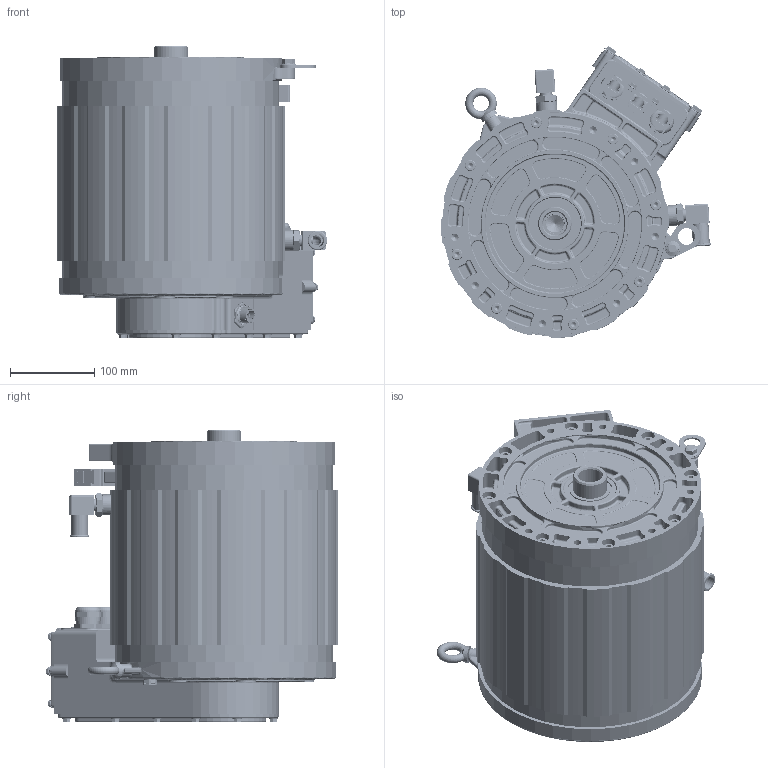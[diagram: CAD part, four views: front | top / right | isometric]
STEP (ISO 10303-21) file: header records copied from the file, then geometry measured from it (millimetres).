
FILE_DESCRIPTION (( 'STEP AP203' ), '1' );
FILE_NAME ('CMLA35-軞蚾极.STEP', '2022-03-16T03:18:18', ( '22' ), ( 'Microsoft' ), 'SwSTEP 2.0', 'SolidWorks 2014', '' );
FILE_SCHEMA (( 'CONFIG_CONTROL_DESIGN' ));
Length unit declared in the file: millimetre
Products named in the file (47): CMLA32-SDY _X2_673A5EA7591658F3_X0_; spring lock washers--normal type gb_GB_FASTENER_WASHER_SW 6; hexagon socket head cap screws gb_GB_FASTENER_SCREWS_HSHCS M6X16-N; MP11-88-02三相线卡扣-S0; hex flange bolts-heavy grade b gb_GB_FASTENER_BOLT_HFBB M5X12-N; CMLA32-SDY _X2_673A5EA7518558F3_X0_; 呿蹋滅阨芵ァ概M12X1.50902; M8 _X2_540A73AF87BA9489_X0_; SMAA10-16-DE01 裂嫉; cross recessed pan head screws gb_GB_CROSS_SCREWS_TYPE1 M4X10-10  H type-N; 05.01.12.084_SMA015-JXG01 _X2_63A57EBF76D276D6_X0_; CMLA32-SDY _X2_673A5EA7710A63A5_X0_; hex flange bolts-heavy grade b gb_GB_FASTENER_BOLT_HFBB M5X40-N; pc3004001 _X2_5F2F59346C345634_X0_ M16X20; hex flange bolts-heavy grade b gb_GB_FASTENER_BOLT_HFBB M8X16-N; plain washers--product grade c gb_GB_FASTENER_WASHER_SMWC 4; _X2_68078BC6_X0_; CMLA32-SDY _X2_5B9A5B50_X0_; CMLA35-軞蚾极; hexagon socket head cap screws gb_GB_FASTENER_SCREWS_HSHCS M8X20-N; hexagon socket head cap screws gb_GB_FASTENER_SCREWS_HSHCS M6X35-N; spring lock washers--normal type gb_GB_FASTENER_WASHER_SW 4; 05.01.12.084_SMA015-JXG01 _X2_63A57EBF76D276D6_X0_(_X2_5E2668078BC6_X0_); 05.01.31.034_SMA015-JXB01 _X2_63A57EBF677F_X0_; M25X1.5X18PG_X2_63A55934_X0_-_X2_65874F9D_X0_; hexagon socket head cap screws gb_GB_FASTENER_SCREWS_HSHCS M8X30-N; M4-10; CMLA32-SDY _X2_540E7AEF76D6_X0_; CMLA32-SDY _X2_7EDD7F18677F_X0_; 05.02.32.061_SMA015-JYB01 _X2_7EDD7F18677F_X0_; spring lock washers--normal type gb_GB_FASTENER_WASHER_SW 8; CMLB23-23-QDG01 ヶ傷裔; _X2_62A47EBF73AF_X0_ SB-1208SFB; CMLB23-23-ZZH01 蛌粣; 02.05.03.039_SMA015-19-JXD02 _X2_63A57EBF7AEF5B50_X0_(SDY); plain washers--product grade c gb_GB_FASTENER_WASHER_SMWC 8; CMLA32-SDY _X2_540E76D6677F_X0_(_X2_51B2538B_X0_); ヶ傷裔詩杶; Rolling bearings 6206 GB 276-94; CMLA32-SDY _X2_8F6C5B50_X0_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
Assembly tree (139 placements, depth 4):
  CMLA35-軞蚾极
    spring lock washers--normal type gb_GB_FASTENER_WASHER_SW 8  x6
    CMLA32-SDY _X2_540E76D6677F_X0_(_X2_51B2538B_X0_)
    plain washers-n series-grade a gb_GB_FASTENER_WASHER_PWNA 8  x6
    hexagon socket head cap screws gb_GB_FASTENER_SCREWS_HSHCS M6X16-N  x4
    M8 _X2_540A73AF87BA9489_X0_
    pc3004001 _X2_5F2F59346C345634_X0_ M16X20  x2
    hexagon socket head cap screws gb_GB_FASTENER_SCREWS_HSHCS M8X20-N  x6
    M25X1.5X18PG_X2_63A55934_X0_-_X2_65874F9D_X0_  x3
    05.02.32.061_SMA015-JYB01 _X2_7EDD7F18677F_X0_
    02.05.03.039_SMA015-19-JXD02 _X2_63A57EBF7AEF5B50_X0_(SDY)  x3
    hex thin nuts grades ab gb_GB_FASTENER_NUT_STNABTT M16X1.5-N  x2
    CMLA32-SDY _X2_5B9A5B50_X0_
      CMLA32-SDY _X2_673A5EA7710A63A5_X0_
        CMLA32-SDY _X2_673A5EA7591658F3_X0_
        CMLA32-SDY _X2_673A5EA7518558F3_X0_
    05.01.31.034_SMA015-JXB01 _X2_63A57EBF677F_X0_
    CMLA32-SDY _X2_7EDD7F18677F_X0_
    CMLA32-SDY _X2_8F6C5B50_X0_
      CMLB23-23-ZZH01 蛌粣
    LPT07A-12-10P(023)(LC)
    05.01.12.084_SMA015-JXG01 _X2_63A57EBF76D276D6_X0_(_X2_5E2668078BC6_X0_)
      05.01.12.084_SMA015-JXG01 _X2_63A57EBF76D276D6_X0_
      _X2_68078BC6_X0_
    CMLA32-SDY _X2_540E7AEF76D6_X0_
    _X2_62A47EBF73AF_X0_ SB-1208SFB
    Rolling bearings 6206 GB 276-94
    R倰盄標
    hex flange bolts-heavy grade b gb_GB_FASTENER_BOLT_HFBB M5X12-N  x24
    M4-10  x4
      cross recessed pan head screws gb_GB_CROSS_SCREWS_TYPE1 M4X10-10  H type-N
      plain washers--product grade c gb_GB_FASTENER_WASHER_SMWC 4
      spring lock washers--normal type gb_GB_FASTENER_WASHER_SW 4
    CMLB23-23-QDG01 ヶ傷裔
    ヶ傷裔詩杶
    油封40×58×9
    MP11-88-02三相线卡扣-S0
    SMAA10-16-DE01 裂嫉
    hex flange bolts-heavy grade b gb_GB_FASTENER_BOLT_HFBB M8X16-N
    hexagon socket head cap screws gb_GB_FASTENER_SCREWS_HSHCS M6X35-N  x8
    hexagon socket head cap screws gb_GB_FASTENER_SCREWS_HSHCS M8X30-N  x8
    spring lock washers--normal type gb_GB_FASTENER_WASHER_SW 8  x8
    plain washers--product grade c gb_GB_FASTENER_WASHER_SMWC 8  x8
    plain washers--product grade c gb_GB_FASTENER_WASHER_SMWC 6  x8
    spring lock washers--normal type gb_GB_FASTENER_WASHER_SW 6  x8
    呿蹋滅阨芵ァ概M12X1.50902
    hex flange bolts-heavy grade b gb_GB_FASTENER_BOLT_HFBB M5X40-N  x2
Bounding box: 321.08 x 346.93 x 347.9 mm (x, y, z)
Volume: 5237957.8 mm3; surface area: 1723771 mm2
Topology: 176 solids, 189 shells, 11378 faces, 29632 edges, 18540 vertices
Faces by surface type: plane 4980, cylinder 2975, bspline 1427, torus 1181, cone 647, sphere 168
Entity records: 367544 total; most frequent: CARTESIAN_POINT 133099, ORIENTED_EDGE 49906, DIRECTION 44397, EDGE_CURVE 24962, VERTEX_POINT 15887, AXIS2_PLACEMENT_3D 15407, LINE 13583, VECTOR 13583
